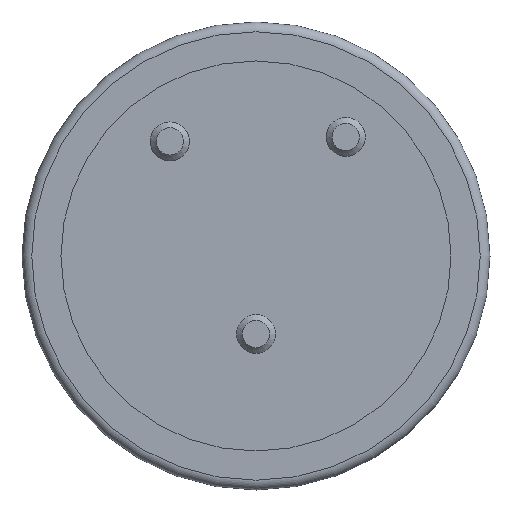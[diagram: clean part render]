
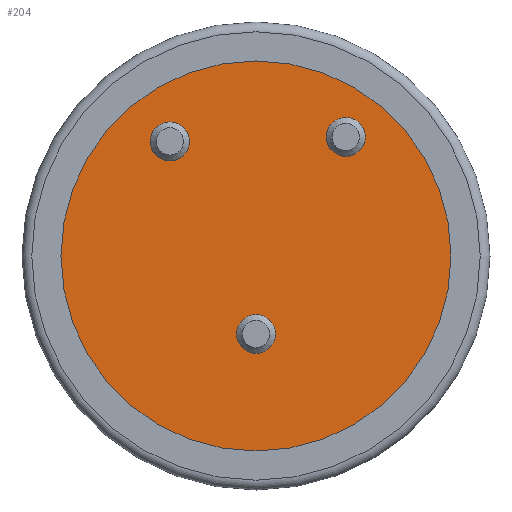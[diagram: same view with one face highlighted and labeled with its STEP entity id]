
A CAD part, left-side view. The second image highlights one B-rep face of the part: STEP entity #204.
In plain terms, the highlighted planar face has unit normal (-1, 0, 0).
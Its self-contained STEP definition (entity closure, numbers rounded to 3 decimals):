
#17=FACE_BOUND('',#59,.T.);
#18=FACE_BOUND('',#60,.T.);
#19=FACE_BOUND('',#61,.T.);
#24=PLANE('',#245);
#42=FACE_OUTER_BOUND('',#58,.T.);
#58=EDGE_LOOP('',(#172));
#59=EDGE_LOOP('',(#173));
#60=EDGE_LOOP('',(#174));
#61=EDGE_LOOP('',(#175));
#86=CIRCLE('',#228,5.);
#89=CIRCLE('',#234,5.);
#92=CIRCLE('',#240,5.);
#93=CIRCLE('',#243,50.);
#103=VERTEX_POINT('',#341);
#106=VERTEX_POINT('',#352);
#109=VERTEX_POINT('',#363);
#110=VERTEX_POINT('',#368);
#120=EDGE_CURVE('',#103,#103,#86,.T.);
#125=EDGE_CURVE('',#106,#106,#89,.T.);
#130=EDGE_CURVE('',#109,#109,#92,.T.);
#131=EDGE_CURVE('',#110,#110,#93,.T.);
#172=ORIENTED_EDGE('',*,*,#131,.F.);
#173=ORIENTED_EDGE('',*,*,#120,.F.);
#174=ORIENTED_EDGE('',*,*,#130,.F.);
#175=ORIENTED_EDGE('',*,*,#125,.F.);
#204=ADVANCED_FACE('',(#42,#17,#18,#19),#24,.F.);
#228=AXIS2_PLACEMENT_3D('',#343,#269,#270);
#234=AXIS2_PLACEMENT_3D('',#354,#283,#284);
#240=AXIS2_PLACEMENT_3D('',#365,#297,#298);
#243=AXIS2_PLACEMENT_3D('',#369,#303,#304);
#245=AXIS2_PLACEMENT_3D('',#373,#308,#309);
#269=DIRECTION('center_axis',(-1.,0.,0.));
#270=DIRECTION('ref_axis',(0.,1.,0.));
#283=DIRECTION('center_axis',(-1.,0.,0.));
#284=DIRECTION('ref_axis',(0.,1.,0.));
#297=DIRECTION('center_axis',(-1.,0.,0.));
#298=DIRECTION('ref_axis',(0.,1.,0.));
#303=DIRECTION('center_axis',(1.,0.,0.));
#304=DIRECTION('ref_axis',(0.,1.,0.));
#308=DIRECTION('center_axis',(1.,0.,0.));
#309=DIRECTION('ref_axis',(0.,1.,0.));
#341=CARTESIAN_POINT('',(177.5,-5.,-20.));
#343=CARTESIAN_POINT('Origin',(177.5,0.,-20.));
#352=CARTESIAN_POINT('',(177.5,-28.016,30.534));
#354=CARTESIAN_POINT('Origin',(177.5,-23.016,30.534));
#363=CARTESIAN_POINT('',(177.5,17.091,29.378));
#365=CARTESIAN_POINT('Origin',(177.5,22.091,29.378));
#368=CARTESIAN_POINT('',(177.5,-50.,0.));
#369=CARTESIAN_POINT('Origin',(177.5,0.,0.));
#373=CARTESIAN_POINT('Origin',(177.5,0.,0.));
